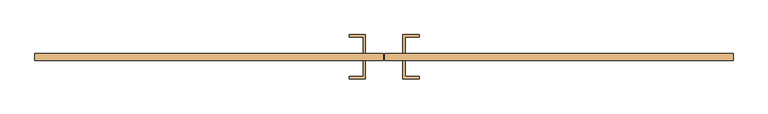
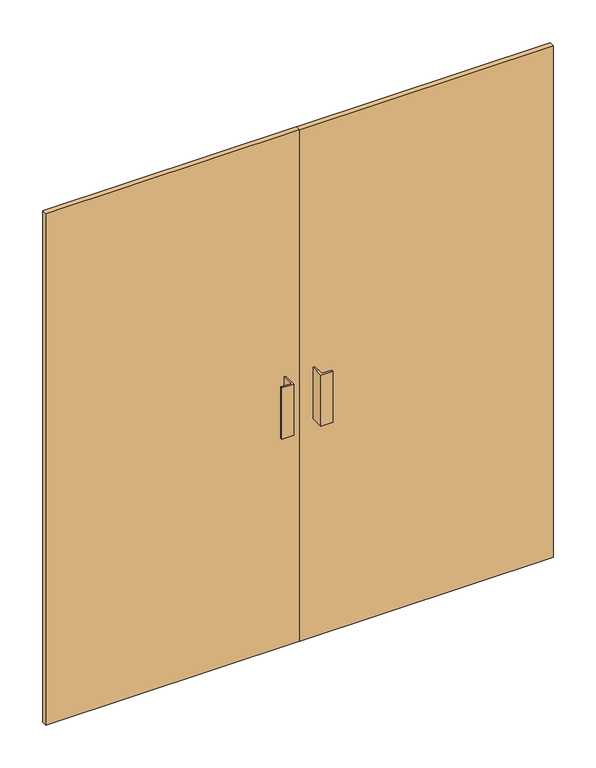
"""IFC4 building model written with IfcOpenShell, lengths in millimetres: door geometry, Дверь-Витраж-Двойная-Остекление : Дверь-Витраж-Двойная-Остекление."""

from ifc_helpers import new_model, si_unit, frame, origin, origin_with_axes, place, context, project, spatial, polyline, outline, extrude, source, transform, mapped, element, save


def door_0fcf24ba(model_context):
    return source(origin(), model_context, "Body", "SweptSolid", [
        extrude(outline(polyline([(-1.5643999, -31.75), (-1.5643999, -50.8), (-950.0, -50.8), (-950.0, -31.75), (-1.5643999, -31.75)])), origin_with_axes(), (0.0, 0.0, 1.0), 2025.0),
        extrude(outline(polyline([(950.0, -31.75), (950.0, -50.8), (1.6106001, -50.8), (1.6106001, -31.75), (950.0, -31.75)])), origin_with_axes(), (0.0, 0.0, 1.0), 2025.0),
        extrude(outline(polyline([(-50.7768999, -101.6), (-95.2268999, -101.6), (-95.2268999, -95.25), (-57.1268999, -95.25), (-57.1268999, -50.8), (-50.7768999, -50.8), (-50.7768999, -101.6)])), frame((0.0, 0.0, 863.6), z_axis=(0.0, 0.0, 1.0), x_axis=(1.0, 0.0, 0.0)), (0.0, 0.0, 1.0), 203.2),
        extrude(outline(polyline([(50.8231001, -101.6), (50.8231001, -50.8), (57.1731001, -50.8), (57.1731001, -95.25), (95.2731001, -95.25), (95.2731001, -101.6), (50.8231001, -101.6)])), frame((0.0, 0.0, 863.6), z_axis=(0.0, 0.0, 1.0), x_axis=(1.0, 0.0, 0.0)), (0.0, 0.0, 1.0), 203.2),
        extrude(outline(polyline([(-50.7768999, 19.05), (-50.7768999, -31.75), (-57.1268999, -31.75), (-57.1268999, 12.7), (-95.2268999, 12.7), (-95.2268999, 19.05), (-50.7768999, 19.05)])), frame((0.0, 0.0, 863.6), z_axis=(0.0, 0.0, 1.0), x_axis=(1.0, 0.0, 0.0)), (0.0, 0.0, 1.0), 203.2),
        extrude(outline(polyline([(50.8231001, 19.05), (95.2731001, 19.05), (95.2731001, 12.7), (57.1731001, 12.7), (57.1731001, -31.75), (50.8231001, -31.75), (50.8231001, 19.05)])), frame((0.0, 0.0, 863.6), z_axis=(0.0, 0.0, 1.0), x_axis=(1.0, 0.0, 0.0)), (0.0, 0.0, 1.0), 203.2),
    ])


if __name__ == "__main__":
    model = new_model("IFC4")
    model_context = context("Model", 3, world=origin())
    ifc_project = project(units=[si_unit("LENGTHUNIT", "METRE", prefix="MILLI")], contexts=[model_context])
    site = spatial("IfcSite", under=ifc_project)
    building = spatial("IfcBuilding", under=site)
    placement = place(None, origin())
    door_shape = door_0fcf24ba(model_context)
    element("IfcDoor", 1, ObjectType="Дверь-Витраж-Двойная-Остекление : Дверь-Витраж-Двойная-Остекление", at=placement, inside=building, context=model_context, shape_type="MappedRepresentation", body=[
        mapped(door_shape, transform((0.0, 0.0, 0.0), x_axis=(1.0, 0.0, 0.0), y_axis=(0.0, 1.0, 0.0), z_axis=(0.0, 0.0, 1.0))),
    ])
    save(model, "model.ifc")
